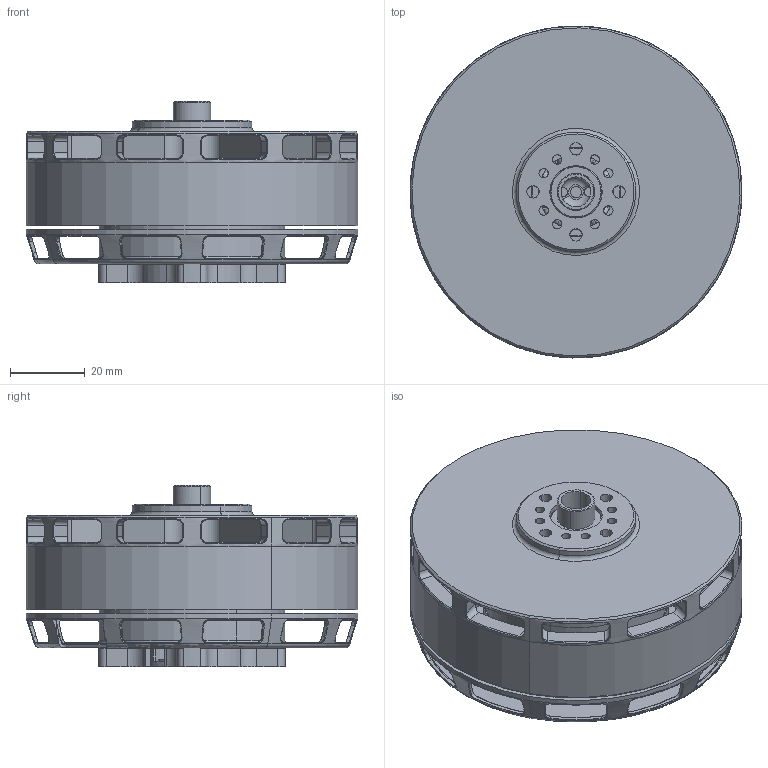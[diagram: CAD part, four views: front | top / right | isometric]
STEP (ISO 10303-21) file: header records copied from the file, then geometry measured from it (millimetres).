
FILE_DESCRIPTION (( 'STEP AP203' ), '1' );
FILE_NAME ('VL8018-勤俋.STEP', '2024-10-11T01:45:34', ( '1' ), ( '' ), 'SwSTEP 2.0', 'SolidWorks 2021', '' );
FILE_SCHEMA (( 'CONFIG_CONTROL_DESIGN' ));
Length unit declared in the file: millimetre
Products named in the file (14): qiangai; VL-棠晤釱; EZO 6901 ZZ; VL8013-SANRENPIAN; M12; 覜茼棠沺; VL8013-hougai; VL8013-gangzhou-2; VL8018-勤俋; VL100-晤鎢ん菁釱-A; 粣12mm-huangtongdianpian; VL-坶粣菜え; V炵蹈隅蔑晤鎢んV2.0; VL8013-gangquan
Assembly tree (14 placements, depth 2):
  VL8018-勤俋
    VL8013-gangquan
    qiangai
    VL8013-gangzhou-2
    VL8013-hougai
    EZO 6901 ZZ  x2
    VL8013-SANRENPIAN
    M12
    VL100-晤鎢ん菁釱-A
    VL-棠晤釱
    VL-坶粣菜え
    V炵蹈隅蔑晤鎢んV2.0
    覜茼棠沺
    粣12mm-huangtongdianpian
Bounding box: 88.78 x 88.78 x 48.5 mm (x, y, z)
Volume: 59966.9 mm3; surface area: 81871.8 mm2
Topology: 61 solids, 61 shells, 3057 faces, 8351 edges, 5082 vertices
Faces by surface type: plane 1039, cylinder 995, bspline 343, sphere 304, torus 286, cone 90
Entity records: 132169 total; most frequent: CARTESIAN_POINT 63485, ORIENTED_EDGE 14904, DIRECTION 12893, EDGE_CURVE 7452, AXIS2_PLACEMENT_3D 4993, VERTEX_POINT 4627, EDGE_LOOP 3067, ADVANCED_FACE 2911
